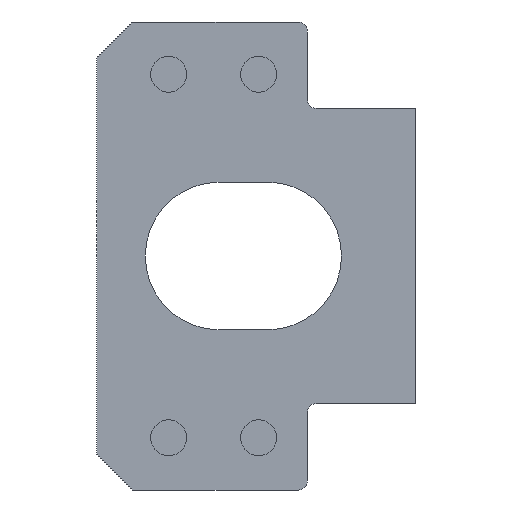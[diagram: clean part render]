
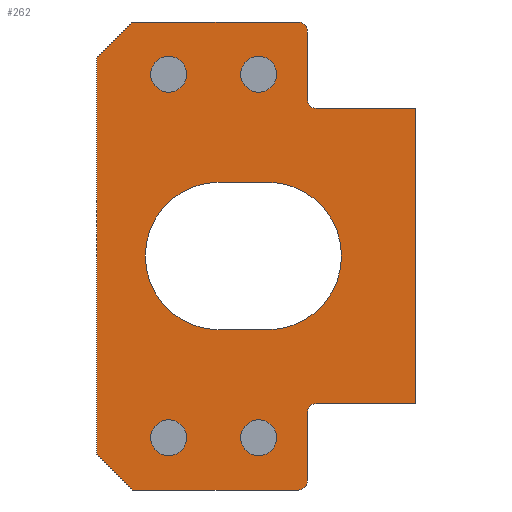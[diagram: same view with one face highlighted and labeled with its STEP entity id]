
A CAD part, front view. The second image highlights one B-rep face of the part: STEP entity #262.
In plain terms, the highlighted planar face has unit normal (0, -1, 0).
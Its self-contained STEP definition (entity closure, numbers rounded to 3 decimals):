
#262=ADVANCED_FACE('',(#403,#404,#405,#406,#407,#408),#356,.F.);
#356=PLANE('',#1719);
#403=FACE_BOUND('',#431,.T.);
#404=FACE_BOUND('',#432,.T.);
#405=FACE_BOUND('',#433,.T.);
#406=FACE_BOUND('',#434,.T.);
#407=FACE_BOUND('',#435,.T.);
#408=FACE_BOUND('',#436,.T.);
#431=EDGE_LOOP('',(#675,#676,#677,#678,#679,#680,#681,#682,#683,#684,#685,
#686,#687,#688));
#432=EDGE_LOOP('',(#689,#690));
#433=EDGE_LOOP('',(#691,#692));
#434=EDGE_LOOP('',(#693,#694));
#435=EDGE_LOOP('',(#695,#696));
#436=EDGE_LOOP('',(#697,#698,#699,#700));
#551=CIRCLE('',#1701,4.1);
#552=CIRCLE('',#1704,4.1);
#553=CIRCLE('',#1707,0.5);
#554=CIRCLE('',#1708,0.5);
#555=CIRCLE('',#1709,0.5);
#556=CIRCLE('',#1710,0.5);
#557=CIRCLE('',#1711,1.);
#558=CIRCLE('',#1712,1.);
#559=CIRCLE('',#1713,1.);
#560=CIRCLE('',#1714,1.);
#561=CIRCLE('',#1715,1.);
#562=CIRCLE('',#1716,1.);
#563=CIRCLE('',#1717,1.);
#564=CIRCLE('',#1718,1.);
#675=ORIENTED_EDGE('',*,*,#1251,.F.);
#676=ORIENTED_EDGE('',*,*,#1252,.T.);
#677=ORIENTED_EDGE('',*,*,#1253,.T.);
#678=ORIENTED_EDGE('',*,*,#1254,.T.);
#679=ORIENTED_EDGE('',*,*,#1255,.T.);
#680=ORIENTED_EDGE('',*,*,#1256,.T.);
#681=ORIENTED_EDGE('',*,*,#1257,.F.);
#682=ORIENTED_EDGE('',*,*,#1258,.T.);
#683=ORIENTED_EDGE('',*,*,#1259,.F.);
#684=ORIENTED_EDGE('',*,*,#1260,.T.);
#685=ORIENTED_EDGE('',*,*,#1261,.F.);
#686=ORIENTED_EDGE('',*,*,#1262,.T.);
#687=ORIENTED_EDGE('',*,*,#1263,.F.);
#688=ORIENTED_EDGE('',*,*,#1264,.T.);
#689=ORIENTED_EDGE('',*,*,#1265,.F.);
#690=ORIENTED_EDGE('',*,*,#1266,.F.);
#691=ORIENTED_EDGE('',*,*,#1267,.F.);
#692=ORIENTED_EDGE('',*,*,#1268,.F.);
#693=ORIENTED_EDGE('',*,*,#1269,.F.);
#694=ORIENTED_EDGE('',*,*,#1270,.F.);
#695=ORIENTED_EDGE('',*,*,#1271,.F.);
#696=ORIENTED_EDGE('',*,*,#1272,.F.);
#697=ORIENTED_EDGE('',*,*,#1250,.T.);
#698=ORIENTED_EDGE('',*,*,#1248,.T.);
#699=ORIENTED_EDGE('',*,*,#1246,.T.);
#700=ORIENTED_EDGE('',*,*,#1244,.T.);
#1099=VERTEX_POINT('',#2443);
#1100=VERTEX_POINT('',#2445);
#1101=VERTEX_POINT('',#2449);
#1102=VERTEX_POINT('',#2453);
#1103=VERTEX_POINT('',#2459);
#1104=VERTEX_POINT('',#2460);
#1105=VERTEX_POINT('',#2462);
#1106=VERTEX_POINT('',#2464);
#1107=VERTEX_POINT('',#2466);
#1108=VERTEX_POINT('',#2468);
#1109=VERTEX_POINT('',#2470);
#1110=VERTEX_POINT('',#2472);
#1111=VERTEX_POINT('',#2474);
#1112=VERTEX_POINT('',#2476);
#1113=VERTEX_POINT('',#2478);
#1114=VERTEX_POINT('',#2480);
#1115=VERTEX_POINT('',#2482);
#1116=VERTEX_POINT('',#2484);
#1117=VERTEX_POINT('',#2487);
#1118=VERTEX_POINT('',#2488);
#1119=VERTEX_POINT('',#2491);
#1120=VERTEX_POINT('',#2492);
#1121=VERTEX_POINT('',#2495);
#1122=VERTEX_POINT('',#2496);
#1123=VERTEX_POINT('',#2499);
#1124=VERTEX_POINT('',#2500);
#1244=EDGE_CURVE('',#1100,#1099,#551,.T.);
#1246=EDGE_CURVE('',#1101,#1100,#1451,.T.);
#1248=EDGE_CURVE('',#1102,#1101,#552,.T.);
#1250=EDGE_CURVE('',#1099,#1102,#1454,.T.);
#1251=EDGE_CURVE('',#1103,#1104,#1455,.T.);
#1252=EDGE_CURVE('',#1103,#1105,#553,.T.);
#1253=EDGE_CURVE('',#1105,#1106,#1456,.T.);
#1254=EDGE_CURVE('',#1106,#1107,#1457,.T.);
#1255=EDGE_CURVE('',#1107,#1108,#1458,.T.);
#1256=EDGE_CURVE('',#1108,#1109,#554,.T.);
#1257=EDGE_CURVE('',#1110,#1109,#1459,.T.);
#1258=EDGE_CURVE('',#1110,#1111,#555,.T.);
#1259=EDGE_CURVE('',#1112,#1111,#1460,.T.);
#1260=EDGE_CURVE('',#1112,#1113,#1461,.T.);
#1261=EDGE_CURVE('',#1114,#1113,#1462,.T.);
#1262=EDGE_CURVE('',#1114,#1115,#1463,.T.);
#1263=EDGE_CURVE('',#1116,#1115,#1464,.T.);
#1264=EDGE_CURVE('',#1116,#1104,#556,.T.);
#1265=EDGE_CURVE('',#1117,#1118,#557,.T.);
#1266=EDGE_CURVE('',#1118,#1117,#558,.T.);
#1267=EDGE_CURVE('',#1119,#1120,#559,.T.);
#1268=EDGE_CURVE('',#1120,#1119,#560,.T.);
#1269=EDGE_CURVE('',#1121,#1122,#561,.T.);
#1270=EDGE_CURVE('',#1122,#1121,#562,.T.);
#1271=EDGE_CURVE('',#1123,#1124,#563,.T.);
#1272=EDGE_CURVE('',#1124,#1123,#564,.T.);
#1451=LINE('',#2448,#1575);
#1454=LINE('',#2456,#1578);
#1455=LINE('',#2458,#1579);
#1456=LINE('',#2463,#1580);
#1457=LINE('',#2465,#1581);
#1458=LINE('',#2467,#1582);
#1459=LINE('',#2471,#1583);
#1460=LINE('',#2475,#1584);
#1461=LINE('',#2477,#1585);
#1462=LINE('',#2479,#1586);
#1463=LINE('',#2481,#1587);
#1464=LINE('',#2483,#1588);
#1575=VECTOR('',#1928,1.);
#1578=VECTOR('',#1937,1.);
#1579=VECTOR('',#1940,1.);
#1580=VECTOR('',#1943,1.);
#1581=VECTOR('',#1944,1.);
#1582=VECTOR('',#1945,1.);
#1583=VECTOR('',#1948,1.);
#1584=VECTOR('',#1951,1.);
#1585=VECTOR('',#1952,1.);
#1586=VECTOR('',#1953,1.);
#1587=VECTOR('',#1954,1.);
#1588=VECTOR('',#1955,1.);
#1701=AXIS2_PLACEMENT_3D('',#2444,#1923,#1924);
#1704=AXIS2_PLACEMENT_3D('',#2452,#1932,#1933);
#1707=AXIS2_PLACEMENT_3D('',#2461,#1941,#1942);
#1708=AXIS2_PLACEMENT_3D('',#2469,#1946,#1947);
#1709=AXIS2_PLACEMENT_3D('',#2473,#1949,#1950);
#1710=AXIS2_PLACEMENT_3D('',#2485,#1956,#1957);
#1711=AXIS2_PLACEMENT_3D('',#2486,#1958,#1959);
#1712=AXIS2_PLACEMENT_3D('',#2489,#1960,#1961);
#1713=AXIS2_PLACEMENT_3D('',#2490,#1962,#1963);
#1714=AXIS2_PLACEMENT_3D('',#2493,#1964,#1965);
#1715=AXIS2_PLACEMENT_3D('',#2494,#1966,#1967);
#1716=AXIS2_PLACEMENT_3D('',#2497,#1968,#1969);
#1717=AXIS2_PLACEMENT_3D('',#2498,#1970,#1971);
#1718=AXIS2_PLACEMENT_3D('',#2501,#1972,#1973);
#1719=AXIS2_PLACEMENT_3D('',#2502,#1974,#1975);
#1923=DIRECTION('',(0.,1.,0.));
#1924=DIRECTION('',(0.,0.,-1.));
#1928=DIRECTION('',(-1.,0.,0.));
#1932=DIRECTION('',(0.,1.,0.));
#1933=DIRECTION('',(0.,0.,1.));
#1937=DIRECTION('',(1.,0.,0.));
#1940=DIRECTION('',(0.,0.,-1.));
#1941=DIRECTION('',(0.,1.,0.));
#1942=DIRECTION('',(-1.,0.,0.));
#1943=DIRECTION('',(1.,0.,0.));
#1944=DIRECTION('',(0.,0.,1.));
#1945=DIRECTION('',(-1.,0.,0.));
#1946=DIRECTION('',(0.,1.,0.));
#1947=DIRECTION('',(0.,0.,-1.));
#1948=DIRECTION('',(0.,0.,-1.));
#1949=DIRECTION('',(0.,-1.,0.));
#1950=DIRECTION('',(1.,0.,0.));
#1951=DIRECTION('',(1.,0.,0.));
#1952=DIRECTION('',(-0.707,0.,-0.707));
#1953=DIRECTION('',(0.,0.,1.));
#1954=DIRECTION('',(0.707,0.,-0.707));
#1955=DIRECTION('',(-1.,0.,0.));
#1956=DIRECTION('',(0.,-1.,0.));
#1957=DIRECTION('',(0.,0.,-1.));
#1958=DIRECTION('',(0.,-1.,0.));
#1959=DIRECTION('',(0.,0.,-1.));
#1960=DIRECTION('',(0.,-1.,0.));
#1961=DIRECTION('',(0.,0.,1.));
#1962=DIRECTION('',(0.,-1.,0.));
#1963=DIRECTION('',(0.,0.,-1.));
#1964=DIRECTION('',(0.,-1.,0.));
#1965=DIRECTION('',(0.,0.,1.));
#1966=DIRECTION('',(0.,-1.,0.));
#1967=DIRECTION('',(0.,0.,-1.));
#1968=DIRECTION('',(0.,-1.,0.));
#1969=DIRECTION('',(0.,0.,1.));
#1970=DIRECTION('',(0.,-1.,0.));
#1971=DIRECTION('',(0.,0.,-1.));
#1972=DIRECTION('',(0.,-1.,0.));
#1973=DIRECTION('',(0.,0.,1.));
#1974=DIRECTION('',(0.,1.,0.));
#1975=DIRECTION('',(0.,0.,-1.));
#2443=CARTESIAN_POINT('',(-1.7,0.,4.1));
#2444=CARTESIAN_POINT('',(-1.7,0.,0.));
#2445=CARTESIAN_POINT('',(-1.7,0.,-4.1));
#2448=CARTESIAN_POINT('',(1.,0.,-4.1));
#2449=CARTESIAN_POINT('',(1.,0.,-4.1));
#2452=CARTESIAN_POINT('',(1.,0.,0.));
#2453=CARTESIAN_POINT('',(1.,0.,4.1));
#2456=CARTESIAN_POINT('',(-1.7,0.,4.1));
#2458=CARTESIAN_POINT('',(3.2,0.,-8.7));
#2459=CARTESIAN_POINT('',(3.2,0.,-8.7));
#2460=CARTESIAN_POINT('',(3.2,0.,-12.5));
#2461=CARTESIAN_POINT('',(3.7,0.,-8.7));
#2462=CARTESIAN_POINT('',(3.7,0.,-8.2));
#2463=CARTESIAN_POINT('',(3.7,0.,-8.2));
#2464=CARTESIAN_POINT('',(9.2,0.,-8.2));
#2465=CARTESIAN_POINT('',(9.2,0.,-8.2));
#2466=CARTESIAN_POINT('',(9.2,0.,8.2));
#2467=CARTESIAN_POINT('',(9.2,0.,8.2));
#2468=CARTESIAN_POINT('',(3.7,0.,8.2));
#2469=CARTESIAN_POINT('',(3.7,0.,8.7));
#2470=CARTESIAN_POINT('',(3.2,0.,8.7));
#2471=CARTESIAN_POINT('',(3.2,0.,12.5));
#2472=CARTESIAN_POINT('',(3.2,0.,12.5));
#2473=CARTESIAN_POINT('',(2.7,0.,12.5));
#2474=CARTESIAN_POINT('',(2.7,0.,13.));
#2475=CARTESIAN_POINT('',(-6.5,0.,13.));
#2476=CARTESIAN_POINT('',(-6.5,0.,13.));
#2477=CARTESIAN_POINT('',(-6.5,0.,13.));
#2478=CARTESIAN_POINT('',(-8.5,0.,11.));
#2479=CARTESIAN_POINT('',(-8.5,0.,-11.));
#2480=CARTESIAN_POINT('',(-8.5,0.,-11.));
#2481=CARTESIAN_POINT('',(-8.5,0.,-11.));
#2482=CARTESIAN_POINT('',(-6.5,0.,-13.));
#2483=CARTESIAN_POINT('',(2.7,0.,-13.));
#2484=CARTESIAN_POINT('',(2.7,0.,-13.));
#2485=CARTESIAN_POINT('',(2.7,0.,-12.5));
#2486=CARTESIAN_POINT('',(-4.5,0.,-10.1));
#2487=CARTESIAN_POINT('',(-4.5,0.,-11.1));
#2488=CARTESIAN_POINT('',(-4.5,0.,-9.1));
#2489=CARTESIAN_POINT('',(-4.5,0.,-10.1));
#2490=CARTESIAN_POINT('',(0.5,0.,-10.1));
#2491=CARTESIAN_POINT('',(0.5,0.,-11.1));
#2492=CARTESIAN_POINT('',(0.5,0.,-9.1));
#2493=CARTESIAN_POINT('',(0.5,0.,-10.1));
#2494=CARTESIAN_POINT('',(-4.5,0.,10.1));
#2495=CARTESIAN_POINT('',(-4.5,0.,9.1));
#2496=CARTESIAN_POINT('',(-4.5,0.,11.1));
#2497=CARTESIAN_POINT('',(-4.5,0.,10.1));
#2498=CARTESIAN_POINT('',(0.5,0.,10.1));
#2499=CARTESIAN_POINT('',(0.5,0.,9.1));
#2500=CARTESIAN_POINT('',(0.5,0.,11.1));
#2501=CARTESIAN_POINT('',(0.5,0.,10.1));
#2502=CARTESIAN_POINT('',(-10.27,0.,-9.5));
